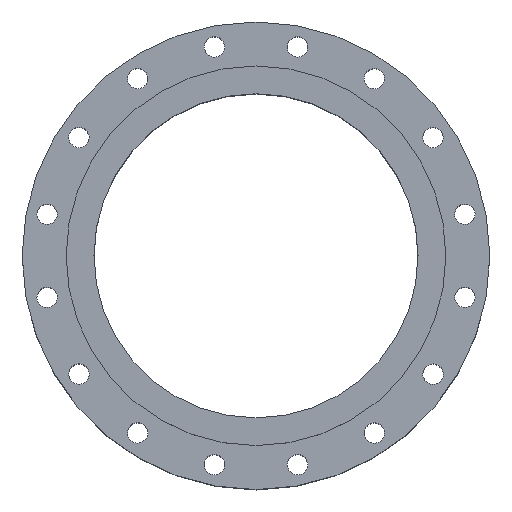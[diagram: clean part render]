
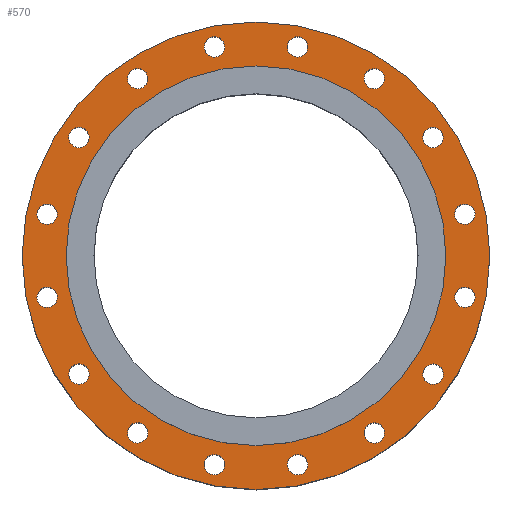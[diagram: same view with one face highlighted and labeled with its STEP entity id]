
A CAD part, top view. The second image highlights one B-rep face of the part: STEP entity #570.
In plain terms, the highlighted planar face has unit normal (0, 0, 1).
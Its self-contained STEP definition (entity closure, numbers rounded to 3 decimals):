
#570=ADVANCED_FACE('',(#1227,#1229,#1231,#1233,#1235,#1237,#1239,#1241,#1243,#1245,
#1247,#1249,#1251,#1253,#1255,#1257,#1259,#1261),#1263,.T.);
#1227=FACE_BOUND('',#1228,.T.);
#1228=EDGE_LOOP('',(#1588));
#1229=FACE_BOUND('',#1230,.T.);
#1230=EDGE_LOOP('',(#1589));
#1231=FACE_BOUND('',#1232,.T.);
#1232=EDGE_LOOP('',(#1590));
#1233=FACE_BOUND('',#1234,.T.);
#1234=EDGE_LOOP('',(#1591));
#1235=FACE_BOUND('',#1236,.T.);
#1236=EDGE_LOOP('',(#1592));
#1237=FACE_BOUND('',#1238,.T.);
#1238=EDGE_LOOP('',(#1593));
#1239=FACE_BOUND('',#1240,.T.);
#1240=EDGE_LOOP('',(#1594));
#1241=FACE_BOUND('',#1242,.T.);
#1242=EDGE_LOOP('',(#1595));
#1243=FACE_BOUND('',#1244,.T.);
#1244=EDGE_LOOP('',(#1596));
#1245=FACE_BOUND('',#1246,.T.);
#1246=EDGE_LOOP('',(#1597));
#1247=FACE_BOUND('',#1248,.T.);
#1248=EDGE_LOOP('',(#1598));
#1249=FACE_BOUND('',#1250,.T.);
#1250=EDGE_LOOP('',(#1599));
#1251=FACE_BOUND('',#1252,.T.);
#1252=EDGE_LOOP('',(#1600));
#1253=FACE_BOUND('',#1254,.T.);
#1254=EDGE_LOOP('',(#1601));
#1255=FACE_BOUND('',#1256,.T.);
#1256=EDGE_LOOP('',(#1602));
#1257=FACE_BOUND('',#1258,.T.);
#1258=EDGE_LOOP('',(#1603));
#1259=FACE_BOUND('',#1260,.T.);
#1260=EDGE_LOOP('',(#1604));
#1261=FACE_BOUND('',#1262,.T.);
#1262=EDGE_LOOP('',(#1605));
#1263=PLANE('',#1264);
#1264=AXIS2_PLACEMENT_3D('',#1265,#1266,#1267);
#1265=CARTESIAN_POINT('',(0.,0.,122.5));
#1266=DIRECTION('',(0.,0.,1.));
#1267=DIRECTION('',(0.,1.,0.));
#1588=ORIENTED_EDGE('',*,*,#1724,.F.);
#1589=ORIENTED_EDGE('',*,*,#1725,.T.);
#1590=ORIENTED_EDGE('',*,*,#1726,.T.);
#1591=ORIENTED_EDGE('',*,*,#1727,.T.);
#1592=ORIENTED_EDGE('',*,*,#1728,.T.);
#1593=ORIENTED_EDGE('',*,*,#1729,.T.);
#1594=ORIENTED_EDGE('',*,*,#1730,.T.);
#1595=ORIENTED_EDGE('',*,*,#1731,.T.);
#1596=ORIENTED_EDGE('',*,*,#1732,.T.);
#1597=ORIENTED_EDGE('',*,*,#1733,.T.);
#1598=ORIENTED_EDGE('',*,*,#1734,.T.);
#1599=ORIENTED_EDGE('',*,*,#1735,.T.);
#1600=ORIENTED_EDGE('',*,*,#1736,.T.);
#1601=ORIENTED_EDGE('',*,*,#1737,.T.);
#1602=ORIENTED_EDGE('',*,*,#1738,.T.);
#1603=ORIENTED_EDGE('',*,*,#1739,.T.);
#1604=ORIENTED_EDGE('',*,*,#1758,.T.);
#1605=ORIENTED_EDGE('',*,*,#1740,.T.);
#1724=EDGE_CURVE('',#1918,#1918,#1919,.T.);
#1725=EDGE_CURVE('',#1920,#1920,#1921,.T.);
#1726=EDGE_CURVE('',#1922,#1922,#1923,.T.);
#1727=EDGE_CURVE('',#1924,#1924,#1925,.T.);
#1728=EDGE_CURVE('',#1926,#1926,#1927,.T.);
#1729=EDGE_CURVE('',#1928,#1928,#1929,.T.);
#1730=EDGE_CURVE('',#1930,#1930,#1931,.T.);
#1731=EDGE_CURVE('',#1932,#1932,#1933,.T.);
#1732=EDGE_CURVE('',#1934,#1934,#1935,.T.);
#1733=EDGE_CURVE('',#1936,#1936,#1937,.T.);
#1734=EDGE_CURVE('',#1938,#1938,#1939,.T.);
#1735=EDGE_CURVE('',#1940,#1940,#1941,.T.);
#1736=EDGE_CURVE('',#1942,#1942,#1943,.T.);
#1737=EDGE_CURVE('',#1944,#1944,#1945,.T.);
#1738=EDGE_CURVE('',#1946,#1946,#1947,.T.);
#1739=EDGE_CURVE('',#1948,#1948,#1949,.T.);
#1740=EDGE_CURVE('',#1950,#1950,#1951,.T.);
#1758=EDGE_CURVE('',#1986,#1986,#1987,.T.);
#1918=VERTEX_POINT('',#3351);
#1919=CIRCLE('',#3352,252.5);
#1920=VERTEX_POINT('',#3356);
#1921=CIRCLE('',#3357,11.);
#1922=VERTEX_POINT('',#3361);
#1923=CIRCLE('',#3362,11.);
#1924=VERTEX_POINT('',#3366);
#1925=CIRCLE('',#3367,11.);
#1926=VERTEX_POINT('',#3371);
#1927=CIRCLE('',#3372,11.);
#1928=VERTEX_POINT('',#3376);
#1929=CIRCLE('',#3377,11.);
#1930=VERTEX_POINT('',#3381);
#1931=CIRCLE('',#3382,11.);
#1932=VERTEX_POINT('',#3386);
#1933=CIRCLE('',#3387,11.);
#1934=VERTEX_POINT('',#3391);
#1935=CIRCLE('',#3392,11.);
#1936=VERTEX_POINT('',#3396);
#1937=CIRCLE('',#3397,11.);
#1938=VERTEX_POINT('',#3401);
#1939=CIRCLE('',#3402,11.);
#1940=VERTEX_POINT('',#3406);
#1941=CIRCLE('',#3407,11.);
#1942=VERTEX_POINT('',#3411);
#1943=CIRCLE('',#3412,11.);
#1944=VERTEX_POINT('',#3416);
#1945=CIRCLE('',#3417,11.);
#1946=VERTEX_POINT('',#3421);
#1947=CIRCLE('',#3422,11.);
#1948=VERTEX_POINT('',#3426);
#1949=CIRCLE('',#3427,11.);
#1950=VERTEX_POINT('',#3431);
#1951=CIRCLE('',#3432,11.);
#1986=VERTEX_POINT('',#3521);
#1987=CIRCLE('',#3522,205.);
#3351=CARTESIAN_POINT('',(0.,252.5,122.5));
#3352=AXIS2_PLACEMENT_3D('',#3353,#3354,#3355);
#3353=CARTESIAN_POINT('',(0.,0.,122.5));
#3354=DIRECTION('',(0.,0.,-1.));
#3355=DIRECTION('',(0.,1.,0.));
#3356=CARTESIAN_POINT('',(117.618,195.448,122.5));
#3357=AXIS2_PLACEMENT_3D('',#3358,#3359,#3360);
#3358=CARTESIAN_POINT('',(127.781,191.238,122.5));
#3359=DIRECTION('',(0.,0.,-1.));
#3360=DIRECTION('',(-0.924,0.383,0.));
#3361=CARTESIAN_POINT('',(183.46,135.559,122.5));
#3362=AXIS2_PLACEMENT_3D('',#3363,#3364,#3365);
#3363=CARTESIAN_POINT('',(191.238,127.781,122.5));
#3364=DIRECTION('',(0.,0.,-1.));
#3365=DIRECTION('',(-0.707,0.707,0.));
#3366=CARTESIAN_POINT('',(221.371,55.033,122.5));
#3367=AXIS2_PLACEMENT_3D('',#3368,#3369,#3370);
#3368=CARTESIAN_POINT('',(225.581,44.871,122.5));
#3369=DIRECTION('',(0.,0.,-1.));
#3370=DIRECTION('',(-0.383,0.924,0.));
#3371=CARTESIAN_POINT('',(225.581,-33.871,122.5));
#3372=AXIS2_PLACEMENT_3D('',#3373,#3374,#3375);
#3373=CARTESIAN_POINT('',(225.581,-44.871,122.5));
#3374=DIRECTION('',(0.,0.,-1.));
#3375=DIRECTION('',(0.,1.,0.));
#3376=CARTESIAN_POINT('',(195.448,-117.618,122.5));
#3377=AXIS2_PLACEMENT_3D('',#3378,#3379,#3380);
#3378=CARTESIAN_POINT('',(191.238,-127.781,122.5));
#3379=DIRECTION('',(0.,0.,-1.));
#3380=DIRECTION('',(0.383,0.924,0.));
#3381=CARTESIAN_POINT('',(135.559,-183.46,122.5));
#3382=AXIS2_PLACEMENT_3D('',#3383,#3384,#3385);
#3383=CARTESIAN_POINT('',(127.781,-191.238,122.5));
#3384=DIRECTION('',(0.,0.,-1.));
#3385=DIRECTION('',(0.707,0.707,0.));
#3386=CARTESIAN_POINT('',(55.033,-221.371,122.5));
#3387=AXIS2_PLACEMENT_3D('',#3388,#3389,#3390);
#3388=CARTESIAN_POINT('',(44.871,-225.581,122.5));
#3389=DIRECTION('',(0.,0.,-1.));
#3390=DIRECTION('',(0.924,0.383,0.));
#3391=CARTESIAN_POINT('',(-33.871,-225.581,122.5));
#3392=AXIS2_PLACEMENT_3D('',#3393,#3394,#3395);
#3393=CARTESIAN_POINT('',(-44.871,-225.581,122.5));
#3394=DIRECTION('',(0.,0.,-1.));
#3395=DIRECTION('',(1.,0.,0.));
#3396=CARTESIAN_POINT('',(-117.618,-195.448,122.5));
#3397=AXIS2_PLACEMENT_3D('',#3398,#3399,#3400);
#3398=CARTESIAN_POINT('',(-127.781,-191.238,122.5));
#3399=DIRECTION('',(0.,0.,-1.));
#3400=DIRECTION('',(0.924,-0.383,0.));
#3401=CARTESIAN_POINT('',(-183.46,-135.559,122.5));
#3402=AXIS2_PLACEMENT_3D('',#3403,#3404,#3405);
#3403=CARTESIAN_POINT('',(-191.238,-127.781,122.5));
#3404=DIRECTION('',(0.,0.,-1.));
#3405=DIRECTION('',(0.707,-0.707,0.));
#3406=CARTESIAN_POINT('',(-221.371,-55.033,122.5));
#3407=AXIS2_PLACEMENT_3D('',#3408,#3409,#3410);
#3408=CARTESIAN_POINT('',(-225.581,-44.871,122.5));
#3409=DIRECTION('',(0.,0.,-1.));
#3410=DIRECTION('',(0.383,-0.924,0.));
#3411=CARTESIAN_POINT('',(-225.581,33.871,122.5));
#3412=AXIS2_PLACEMENT_3D('',#3413,#3414,#3415);
#3413=CARTESIAN_POINT('',(-225.581,44.871,122.5));
#3414=DIRECTION('',(0.,0.,-1.));
#3415=DIRECTION('',(0.,-1.,0.));
#3416=CARTESIAN_POINT('',(-195.448,117.618,122.5));
#3417=AXIS2_PLACEMENT_3D('',#3418,#3419,#3420);
#3418=CARTESIAN_POINT('',(-191.238,127.781,122.5));
#3419=DIRECTION('',(0.,0.,-1.));
#3420=DIRECTION('',(-0.383,-0.924,0.));
#3421=CARTESIAN_POINT('',(-135.559,183.46,122.5));
#3422=AXIS2_PLACEMENT_3D('',#3423,#3424,#3425);
#3423=CARTESIAN_POINT('',(-127.781,191.238,122.5));
#3424=DIRECTION('',(0.,0.,-1.));
#3425=DIRECTION('',(-0.707,-0.707,0.));
#3426=CARTESIAN_POINT('',(-55.033,221.371,122.5));
#3427=AXIS2_PLACEMENT_3D('',#3428,#3429,#3430);
#3428=CARTESIAN_POINT('',(-44.871,225.581,122.5));
#3429=DIRECTION('',(0.,0.,-1.));
#3430=DIRECTION('',(-0.924,-0.383,0.));
#3431=CARTESIAN_POINT('',(33.871,225.581,122.5));
#3432=AXIS2_PLACEMENT_3D('',#3433,#3434,#3435);
#3433=CARTESIAN_POINT('',(44.871,225.581,122.5));
#3434=DIRECTION('',(0.,0.,-1.));
#3435=DIRECTION('',(-1.,0.,0.));
#3521=CARTESIAN_POINT('',(0.,205.,122.5));
#3522=AXIS2_PLACEMENT_3D('',#3523,#3524,#3525);
#3523=CARTESIAN_POINT('',(0.,0.,122.5));
#3524=DIRECTION('',(0.,0.,-1.));
#3525=DIRECTION('',(0.,1.,0.));
